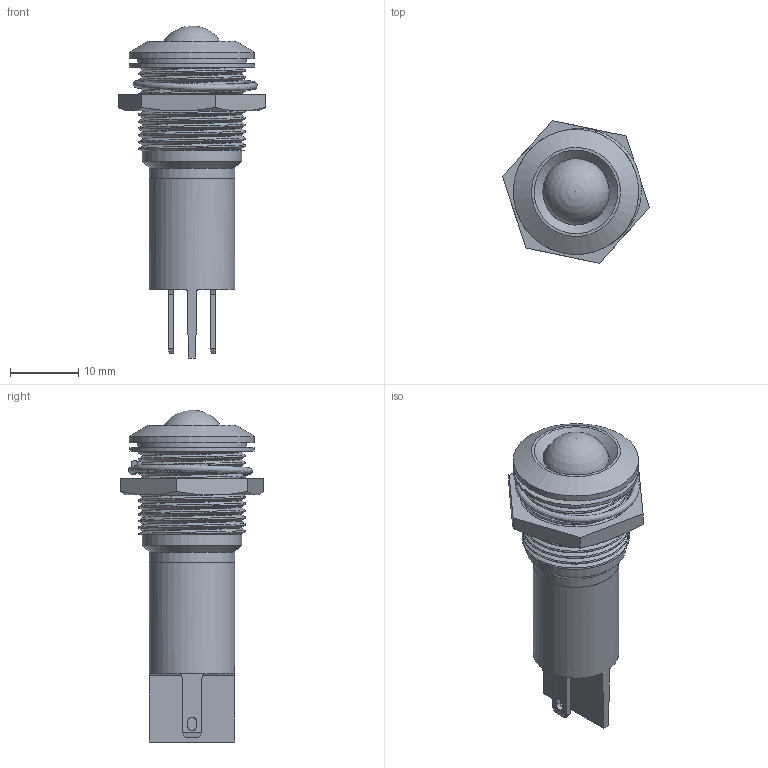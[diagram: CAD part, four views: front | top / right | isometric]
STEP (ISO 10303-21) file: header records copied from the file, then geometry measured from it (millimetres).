
FILE_DESCRIPTION( ( 'Unknown' ), '1' );
FILE_NAME( 'D:/My Documents/Q series 3D files/Q16P1CXXR.stp', 'Unknown', ( 'Unknown' ), ( 'Unknown' ), 'PSStep 15.0.49', 'Unknown', ' ' );
FILE_SCHEMA( ( 'AUTOMOTIVE_DESIGN { 1 0 10303 214 1 1 1 1 }' ) );
Length unit declared in the file: millimetre
Products named in the file (9): Assem1; 12-0016; 12-0016-oa0; 14-0155-1; 16mm nut; 16mm lock washer; 10mm led cut; 16mm dome indicator bezel; 26-0052
Assembly tree (8 placements, depth 2):
  Assem1
    12-0016
    12-0016-oa0
    14-0155-1
    16mm nut
    16mm lock washer
    10mm led cut
    16mm dome indicator bezel
    26-0052
Bounding box: 21.47 x 20.85 x 48.5 mm (x, y, z)
Volume: 4875.6 mm3; surface area: 6122.9 mm2
Topology: 8 solids, 8 shells, 264 faces, 687 edges, 447 vertices
Faces by surface type: plane 175, cylinder 62, bspline 12, cone 11, torus 2, sphere 2
Full cylindrical faces by diameter (mm): 8.8 x1, 9.7 x1, 10 x1, 10.1 x1, 11 x1, 11.4 x1, 11.5 x1, 12.5 x2, 14.5 x13, 15.9 x1, 16 x1, 18.3 x2
Entity records: 21006 total; most frequent: CARTESIAN_POINT 12913, ORIENTED_EDGE 1212, DIRECTION 1201, EDGE_CURVE 606, LINE 419, VECTOR 419, VERTEX_POINT 406, AXIS2_PLACEMENT_3D 391
